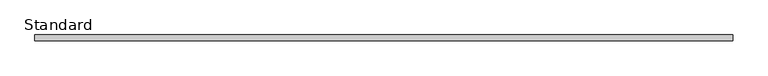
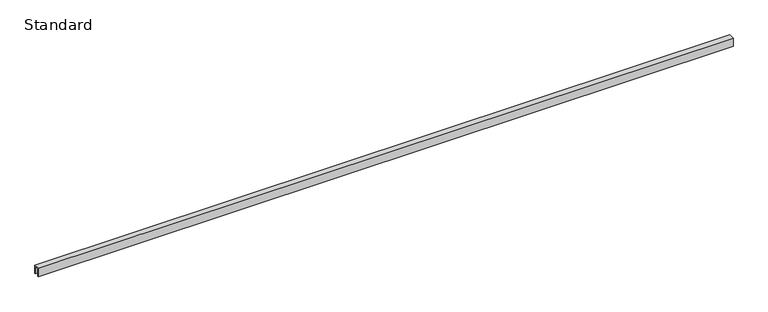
"""IFC4 building model written with IfcOpenShell, lengths in millimetres: furniture geometry, X_Partition-Channel-Duracube-Ceiling : Standard."""

from ifc_helpers import new_model, si_unit, frame, origin, place, context, project, spatial, polyline, outline, extrude, source, transform, mapped, element, save


def standard_59bfe1c4(model_context):
    return source(origin(), model_context, "Body", "SweptSolid", [
        extrude(outline(polyline([(0.0, 0.0), (-2.0, 0.0), (-2.0, 24.0), (-15.0, 24.0), (-15.0, 0.0), (-17.0, 0.0), (-17.0, 26.0), (0.0, 26.0), (0.0, 0.0)])), frame((-985.2996736, 0.0, 0.0), z_axis=(1.0, 0.0, 0.0), x_axis=(0.0, 1.0, 0.0)), (0.0, 0.0, 1.0), 2060.0),
    ])


if __name__ == "__main__":
    model = new_model("IFC4")
    model_context = context("Model", 3, world=origin())
    ifc_project = project(units=[si_unit("LENGTHUNIT", "METRE", prefix="MILLI")], contexts=[model_context])
    site = spatial("IfcSite", under=ifc_project)
    building = spatial("IfcBuilding", under=site)
    placement = place(None, origin())
    standard_shape = standard_59bfe1c4(model_context)
    element("IfcFurniture", 1, ObjectType="X_Partition-Channel-Duracube-Ceiling : Standard", at=placement, inside=building, context=model_context, shape_type="MappedRepresentation", body=[
        mapped(standard_shape, transform((0.0, 0.0, 0.0), x_axis=(1.0, 0.0, 0.0), y_axis=(0.0, 1.0, 0.0), z_axis=(0.0, 0.0, 1.0))),
    ])
    save(model, "model.ifc")
